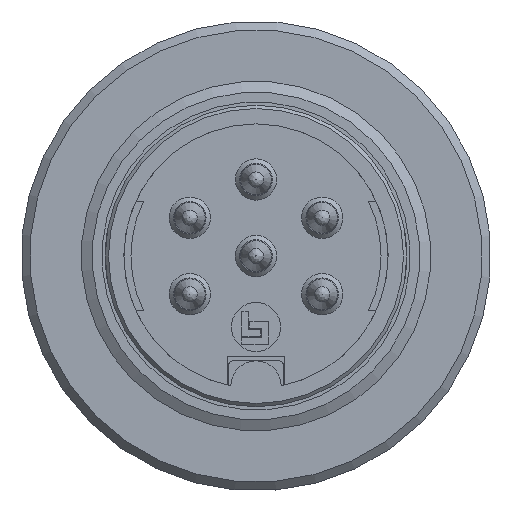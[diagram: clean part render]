
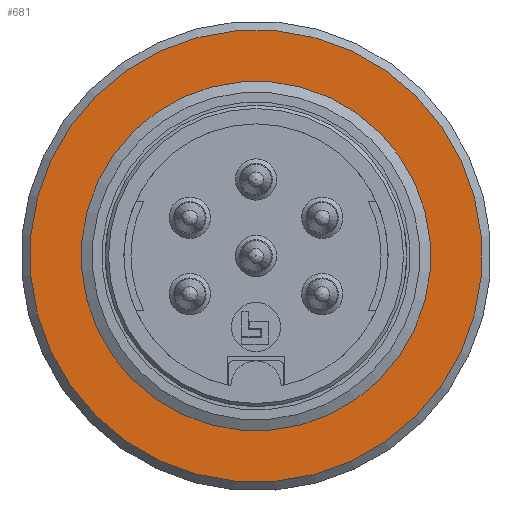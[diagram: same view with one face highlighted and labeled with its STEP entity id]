
A CAD part, left-side view. The second image highlights one B-rep face of the part: STEP entity #681.
In plain terms, the highlighted planar face has unit normal (-1, 0, 0).
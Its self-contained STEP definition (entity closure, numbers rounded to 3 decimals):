
#150=FACE_BOUND('',#984,.T.);
#151=FACE_BOUND('',#985,.T.);
#280=PLANE('',#2511);
#681=ADVANCED_FACE('',(#150,#151),#280,.F.);
#984=EDGE_LOOP('',(#1503));
#985=EDGE_LOOP('',(#1504));
#1184=CIRCLE('',#2508,10.35);
#1185=CIRCLE('',#2510,7.5);
#1503=ORIENTED_EDGE('',*,*,#2216,.T.);
#1504=ORIENTED_EDGE('',*,*,#2217,.T.);
#1962=VERTEX_POINT('',#3736);
#1963=VERTEX_POINT('',#3739);
#2216=EDGE_CURVE('',#1962,#1962,#1184,.T.);
#2217=EDGE_CURVE('',#1963,#1963,#1185,.T.);
#2508=AXIS2_PLACEMENT_3D('',#3735,#2939,#2940);
#2510=AXIS2_PLACEMENT_3D('',#3738,#2943,#2944);
#2511=AXIS2_PLACEMENT_3D('',#3740,#2945,#2946);
#2939=DIRECTION('',(-1.,0.,0.));
#2940=DIRECTION('',(0.,-0.965,-0.261));
#2943=DIRECTION('',(1.,0.,0.));
#2944=DIRECTION('',(0.,-0.965,-0.261));
#2945=DIRECTION('',(1.,0.,0.));
#2946=DIRECTION('',(0.,-0.965,-0.261));
#3735=CARTESIAN_POINT('',(-3.1,0.,0.));
#3736=CARTESIAN_POINT('',(-3.1,-9.991,-2.701));
#3738=CARTESIAN_POINT('',(-3.1,0.,0.));
#3739=CARTESIAN_POINT('',(-3.1,-7.24,-1.957));
#3740=CARTESIAN_POINT('',(-3.1,0.,0.));
